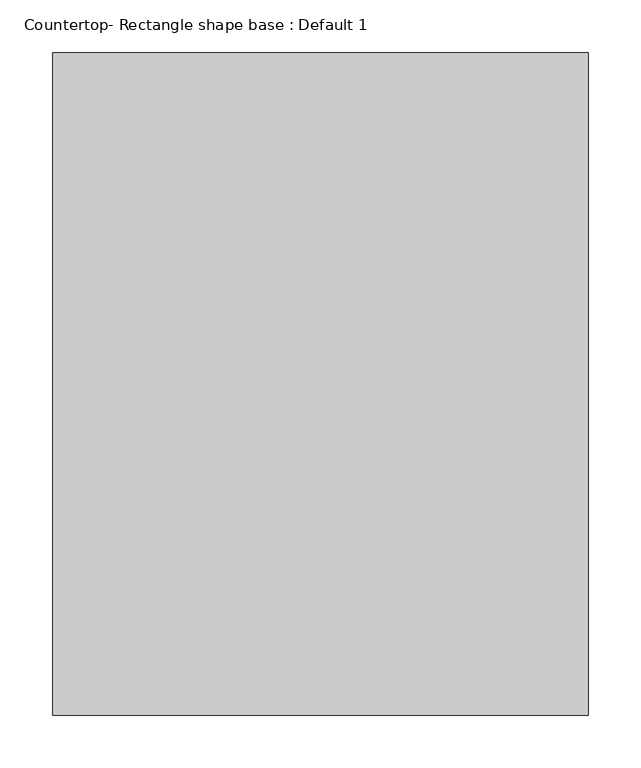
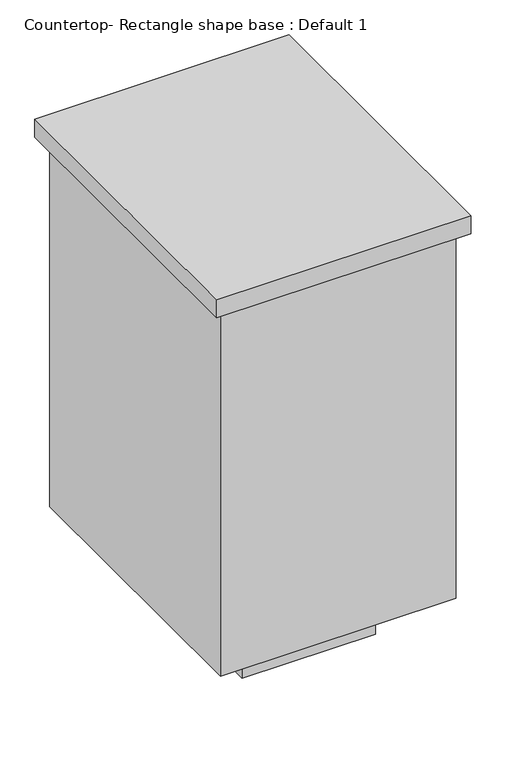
"""IFC4 building model written with IfcOpenShell, lengths in millimetres: proxy geometry, Countertop- Rectangle shape base : Default 1."""

from ifc_helpers import new_model, si_unit, frame, origin, origin_with_axes, place, context, project, spatial, polyline, outline, extrude, source, transform, mapped, element, save


def countertop_rectangle_shape_base_default_1_692601e1(model_context):
    return source(origin(), model_context, "Body", "SweptSolid", [
        extrude(outline(polyline([(508.0, 66.675), (508.0, 695.325), (1016.0, 695.325), (1016.0, 66.675), (508.0, 66.675)])), frame((0.0, 0.0, 876.3), z_axis=(0.0, 0.0, 1.0), x_axis=(1.0, 0.0, 0.0)), (0.0, 0.0, 1.0), 38.1),
        extrude(outline(polyline([(996.95, 676.275), (996.95, 85.725), (527.05, 85.725), (527.05, 676.275), (996.95, 676.275)])), frame((0.0, 0.0, 101.6), z_axis=(0.0, 0.0, 1.0), x_axis=(1.0, 0.0, 0.0)), (0.0, 0.0, 1.0), 774.7),
        extrude(outline(polyline([(895.35, 574.675), (895.35, 187.325), (628.65, 187.325), (628.65, 574.675), (895.35, 574.675)])), origin_with_axes(), (0.0, 0.0, 1.0), 101.6),
    ])


if __name__ == "__main__":
    model = new_model("IFC4")
    model_context = context("Model", 3, world=origin())
    ifc_project = project(units=[si_unit("LENGTHUNIT", "METRE", prefix="MILLI")], contexts=[model_context])
    site = spatial("IfcSite", under=ifc_project)
    building = spatial("IfcBuilding", under=site)
    placement = place(None, origin())
    countertop_rectangle_shape_base_default_1_shape = countertop_rectangle_shape_base_default_1_692601e1(model_context)
    element("IfcBuildingElementProxy", 1, Name="Countertop- Rectangle shape base : Default 1", ObjectType="Countertop- Rectangle shape base : Default 1", at=placement, inside=building, context=model_context, shape_type="MappedRepresentation", body=[
        mapped(countertop_rectangle_shape_base_default_1_shape, transform((0.0, 0.0, 0.0), x_axis=(1.0, 0.0, 0.0), y_axis=(0.0, 1.0, 0.0), z_axis=(0.0, 0.0, 1.0))),
    ])
    save(model, "model.ifc")
